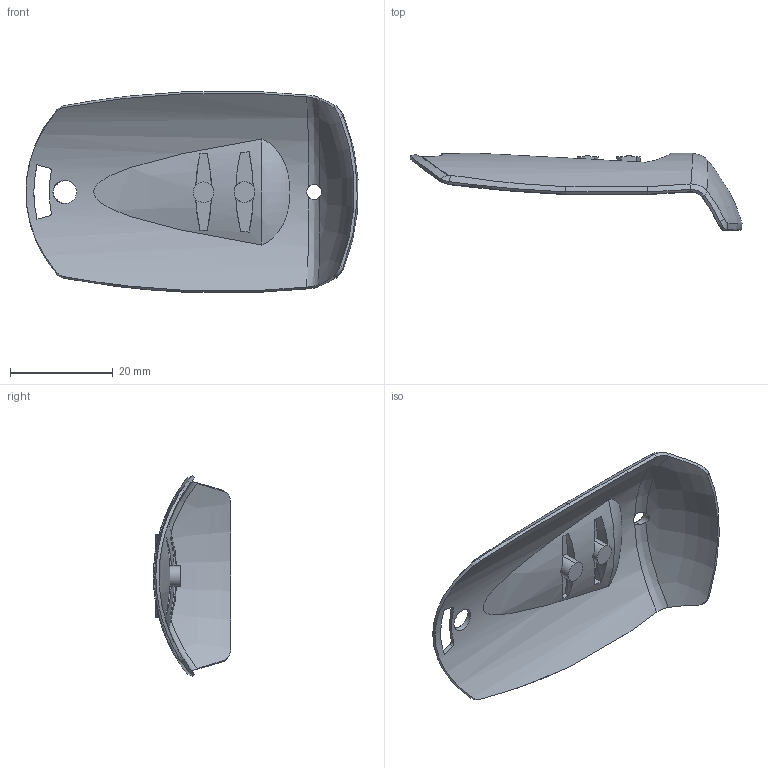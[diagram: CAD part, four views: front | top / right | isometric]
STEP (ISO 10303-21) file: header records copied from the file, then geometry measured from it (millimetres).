
FILE_DESCRIPTION (( 'STEP AP214' ), '1' );
FILE_NAME ('Junta PP111.STEP', '2018-06-05T09:51:17', ( 'aaa' ), ( '' ), 'SwSTEP 2.0', 'SolidWorks 2013', '' );
FILE_SCHEMA (( 'AUTOMOTIVE_DESIGN' ));
Length unit declared in the file: millimetre
Products named in the file (1): Junta PP111
Bounding box: 64.53 x 15 x 38.88 mm (x, y, z)
Volume: 2987.7 mm3; surface area: 5770.9 mm2
Topology: 1 solids, 1 shells, 112 faces, 307 edges, 199 vertices
Faces by surface type: bspline 39, cylinder 38, plane 28, torus 4, cone 3
Entity records: 5441 total; most frequent: CARTESIAN_POINT 2966, ORIENTED_EDGE 614, DIRECTION 340, EDGE_CURVE 307, VERTEX_POINT 199, B_SPLINE_CURVE_WITH_KNOTS 156, AXIS2_PLACEMENT_3D 121, EDGE_LOOP 120
